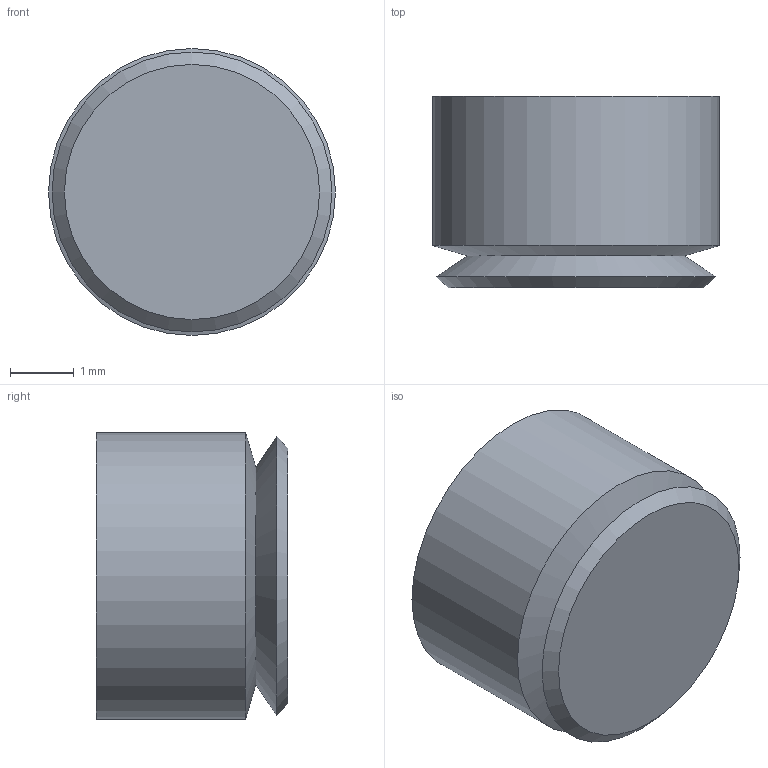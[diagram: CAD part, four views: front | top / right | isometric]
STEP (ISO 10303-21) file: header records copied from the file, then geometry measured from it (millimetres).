
FILE_DESCRIPTION(/* description */ (''),/* implementation_level */ '2;1');
FILE_NAME(/* name */ 'W:\Technik\Konstruktion\CAD-Daten\Vakuumsauger\102_\102.005.115\102.005.115_Kd neu.stp',/* time_stamp */ '2017-07-24T10:10:33+02:00',/* author */ ('DFloßmann'),/* organization */ (''),/* preprocessor_version */ 'ST-DEVELOPER v16.5',/* originating_system */ 'Autodesk Inventor 2017',/* authorisation */ '');
FILE_SCHEMA (('AUTOMOTIVE_DESIGN { 1 0 10303 214 3 1 1 }'));
Length unit declared in the file: millimetre
Products named in the file (1): 102.005.115_Kd neu
Bounding box: 4.5 x 3 x 4.5 mm (x, y, z)
Volume: 30.5 mm3; surface area: 103.1 mm2
Topology: 1 solids, 1 shells, 10 faces, 15 edges, 9 vertices
Faces by surface type: plane 4, cone 3, cylinder 3
Full cylindrical faces by diameter (mm): 2.6 x1, 2.8 x1, 4.5 x1
Entity records: 224 total; most frequent: DIRECTION 40, CARTESIAN_POINT 29, AXIS2_PLACEMENT_3D 20, EDGE_LOOP 18, ORIENTED_EDGE 18, FACE_OUTER_BOUND 10, ADVANCED_FACE 10, CIRCLE 9
